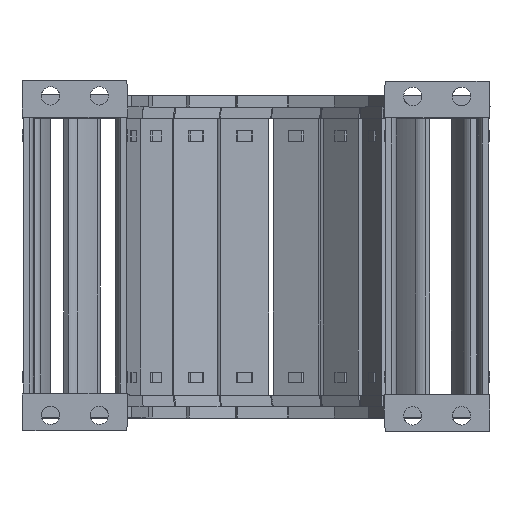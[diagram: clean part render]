
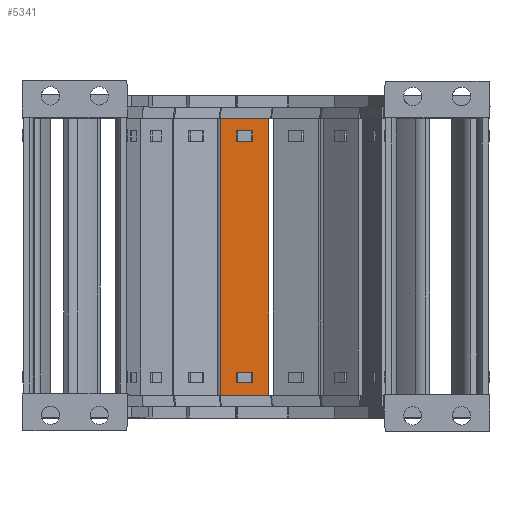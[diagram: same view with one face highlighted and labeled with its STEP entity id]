
A CAD part, top view. The second image highlights one B-rep face of the part: STEP entity #5341.
In plain terms, the highlighted planar face has unit normal (0.035, 0, 0.999).
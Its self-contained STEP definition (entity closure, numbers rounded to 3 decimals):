
#293=FACE_BOUND('',#15295,.T.);
#294=FACE_BOUND('',#15296,.T.);
#295=FACE_BOUND('',#15297,.T.);
#5341=ADVANCED_FACE('',(#293,#294,#295),#8414,.F.);
#8414=PLANE('',#76721);
#15295=EDGE_LOOP('',(#41093,#41094,#41095,#41096));
#15296=EDGE_LOOP('',(#41097,#41098,#41099,#41100));
#15297=EDGE_LOOP('',(#41101,#41102,#41103,#41104));
#21407=LINE('',#117715,#27585);
#21409=LINE('',#117719,#27587);
#21411=LINE('',#117723,#27589);
#21412=LINE('',#117725,#27590);
#21419=LINE('',#117740,#27597);
#21421=LINE('',#117744,#27599);
#21423=LINE('',#117748,#27601);
#21424=LINE('',#117750,#27602);
#21425=LINE('',#117752,#27603);
#21426=LINE('',#117755,#27604);
#21427=LINE('',#117757,#27605);
#21428=LINE('',#117759,#27606);
#27585=VECTOR('',#90400,1.);
#27587=VECTOR('',#90404,1.);
#27589=VECTOR('',#90408,1.);
#27590=VECTOR('',#90411,1.);
#27597=VECTOR('',#90422,1.);
#27599=VECTOR('',#90426,1.);
#27601=VECTOR('',#90430,1.);
#27602=VECTOR('',#90433,1.);
#27603=VECTOR('',#90436,1.);
#27604=VECTOR('',#90437,1.);
#27605=VECTOR('',#90438,1.);
#27606=VECTOR('',#90439,1.);
#41093=ORIENTED_EDGE('',*,*,#65015,.F.);
#41094=ORIENTED_EDGE('',*,*,#65013,.F.);
#41095=ORIENTED_EDGE('',*,*,#65011,.T.);
#41096=ORIENTED_EDGE('',*,*,#65016,.T.);
#41097=ORIENTED_EDGE('',*,*,#65027,.F.);
#41098=ORIENTED_EDGE('',*,*,#65025,.T.);
#41099=ORIENTED_EDGE('',*,*,#65023,.T.);
#41100=ORIENTED_EDGE('',*,*,#65028,.F.);
#41101=ORIENTED_EDGE('',*,*,#65029,.F.);
#41102=ORIENTED_EDGE('',*,*,#65030,.F.);
#41103=ORIENTED_EDGE('',*,*,#65031,.T.);
#41104=ORIENTED_EDGE('',*,*,#65032,.T.);
#56103=VERTEX_POINT('',#117712);
#56104=VERTEX_POINT('',#117714);
#56105=VERTEX_POINT('',#117718);
#56106=VERTEX_POINT('',#117722);
#56111=VERTEX_POINT('',#117737);
#56112=VERTEX_POINT('',#117739);
#56113=VERTEX_POINT('',#117743);
#56114=VERTEX_POINT('',#117747);
#56115=VERTEX_POINT('',#117753);
#56116=VERTEX_POINT('',#117754);
#56117=VERTEX_POINT('',#117756);
#56118=VERTEX_POINT('',#117758);
#65011=EDGE_CURVE('',#56103,#56104,#21407,.T.);
#65013=EDGE_CURVE('',#56103,#56105,#21409,.T.);
#65015=EDGE_CURVE('',#56105,#56106,#21411,.T.);
#65016=EDGE_CURVE('',#56104,#56106,#21412,.T.);
#65023=EDGE_CURVE('',#56111,#56112,#21419,.T.);
#65025=EDGE_CURVE('',#56113,#56111,#21421,.T.);
#65027=EDGE_CURVE('',#56113,#56114,#21423,.T.);
#65028=EDGE_CURVE('',#56114,#56112,#21424,.T.);
#65029=EDGE_CURVE('',#56115,#56116,#21425,.T.);
#65030=EDGE_CURVE('',#56117,#56115,#21426,.T.);
#65031=EDGE_CURVE('',#56117,#56118,#21427,.T.);
#65032=EDGE_CURVE('',#56118,#56116,#21428,.T.);
#76721=AXIS2_PLACEMENT_3D('',#117760,#90440,#90441);
#90400=DIRECTION('',(0.,1.,0.));
#90404=DIRECTION('',(0.999,0.,-0.035));
#90408=DIRECTION('',(0.,1.,0.));
#90411=DIRECTION('',(0.999,0.,-0.035));
#90422=DIRECTION('',(0.,-1.,0.));
#90426=DIRECTION('',(0.999,0.,-0.035));
#90430=DIRECTION('',(0.,-1.,0.));
#90433=DIRECTION('',(0.999,0.,-0.035));
#90436=DIRECTION('',(0.,1.,0.));
#90437=DIRECTION('',(-0.999,0.,0.035));
#90438=DIRECTION('',(0.,1.,0.));
#90439=DIRECTION('',(-0.999,0.,0.035));
#90440=DIRECTION('',(-0.035,0.,-0.999));
#90441=DIRECTION('',(-0.999,0.,0.035));
#117712=CARTESIAN_POINT('',(-65.615,-86.5,-62.316));
#117714=CARTESIAN_POINT('',(-65.615,-83.,-62.316));
#117715=CARTESIAN_POINT('',(-65.615,-33.26,-62.316));
#117718=CARTESIAN_POINT('',(-60.267,-86.5,-62.503));
#117719=CARTESIAN_POINT('',(-65.615,-86.5,-62.316));
#117722=CARTESIAN_POINT('',(-60.267,-83.,-62.503));
#117723=CARTESIAN_POINT('',(-60.267,-65.,-62.503));
#117725=CARTESIAN_POINT('',(-65.615,-83.,-62.316));
#117737=CARTESIAN_POINT('',(-60.267,-4.,-62.503));
#117739=CARTESIAN_POINT('',(-60.267,-7.5,-62.503));
#117740=CARTESIAN_POINT('',(-60.267,-4.,-62.503));
#117743=CARTESIAN_POINT('',(-65.615,-4.,-62.316));
#117744=CARTESIAN_POINT('',(-65.615,-4.,-62.316));
#117747=CARTESIAN_POINT('',(-65.615,-7.5,-62.316));
#117748=CARTESIAN_POINT('',(-65.615,-4.,-62.316));
#117750=CARTESIAN_POINT('',(-65.615,-7.5,-62.316));
#117752=CARTESIAN_POINT('',(-70.836,-25.26,-62.134));
#117753=CARTESIAN_POINT('',(-70.836,-90.5,-62.134));
#117754=CARTESIAN_POINT('',(-70.836,0.,-62.134));
#117755=CARTESIAN_POINT('',(-73.083,-90.5,-62.056));
#117756=CARTESIAN_POINT('',(-55.046,-90.5,-62.685));
#117757=CARTESIAN_POINT('',(-55.046,-25.5,-62.685));
#117758=CARTESIAN_POINT('',(-55.046,0.,-62.685));
#117759=CARTESIAN_POINT('',(-55.046,0.,-62.685));
#117760=CARTESIAN_POINT('',(-52.887,31.74,-62.761));
